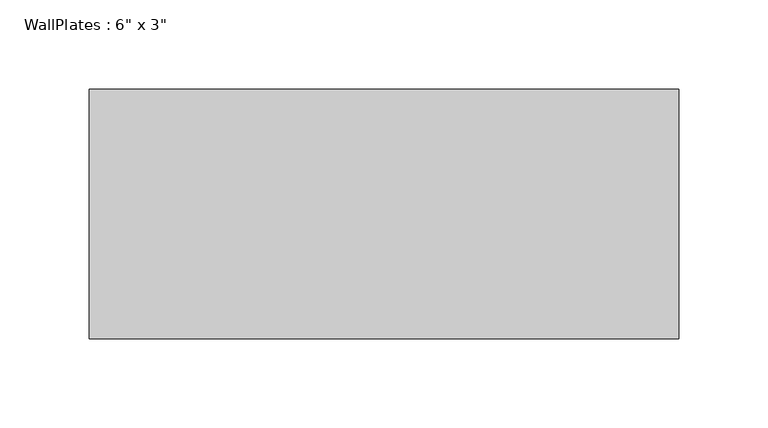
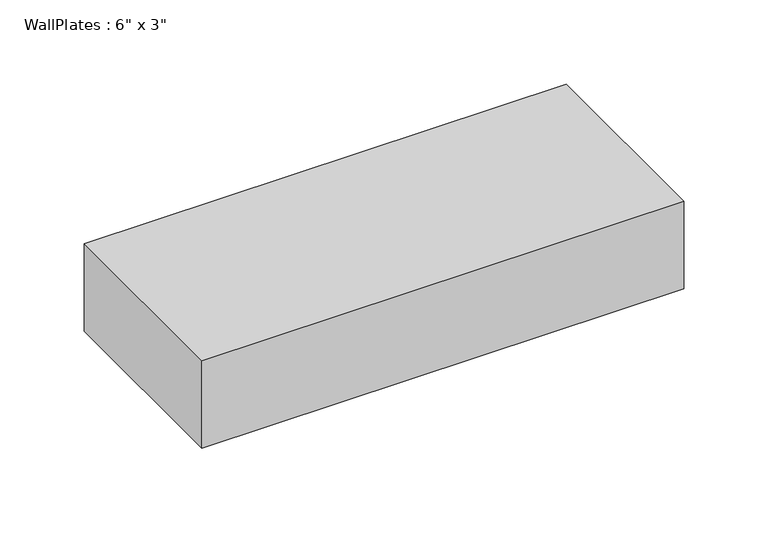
"""IFC4 building model written with IfcOpenShell, lengths in millimetres: beam geometry."""

from ifc_helpers import new_model, si_unit, frame, origin, place, context, project, spatial, polyline, outline, extrude, source, transform, mapped, element, save


def beam_13b1c9db(model_context):
    return source(origin(), model_context, "Body", "SweptSolid", [
        extrude(outline(polyline([(-165.1025, -69.85), (-165.1025, 69.85), (165.1025, 69.85), (165.1025, -69.85), (-165.1025, -69.85)])), frame((0.0, 0.0, -31.75), z_axis=(0.0, 0.0, 1.0), x_axis=(1.0, 0.0, 0.0)), (0.0, 0.0, 1.0), 63.5),
    ])


if __name__ == "__main__":
    model = new_model("IFC4")
    model_context = context("Model", 3, world=origin())
    ifc_project = project(units=[si_unit("LENGTHUNIT", "METRE", prefix="MILLI")], contexts=[model_context])
    site = spatial("IfcSite", under=ifc_project)
    building = spatial("IfcBuilding", under=site)
    placement = place(None, origin())
    beam_shape = beam_13b1c9db(model_context)
    element("IfcBeam", 1, ObjectType="WallPlates : 6\" x 3\"", at=placement, inside=building, context=model_context, shape_type="MappedRepresentation", body=[
        mapped(beam_shape, transform((0.0, 0.0, 0.0), x_axis=(1.0, 0.0, 0.0), y_axis=(0.0, 1.0, 0.0), z_axis=(0.0, 0.0, 1.0))),
    ])
    save(model, "model.ifc")
